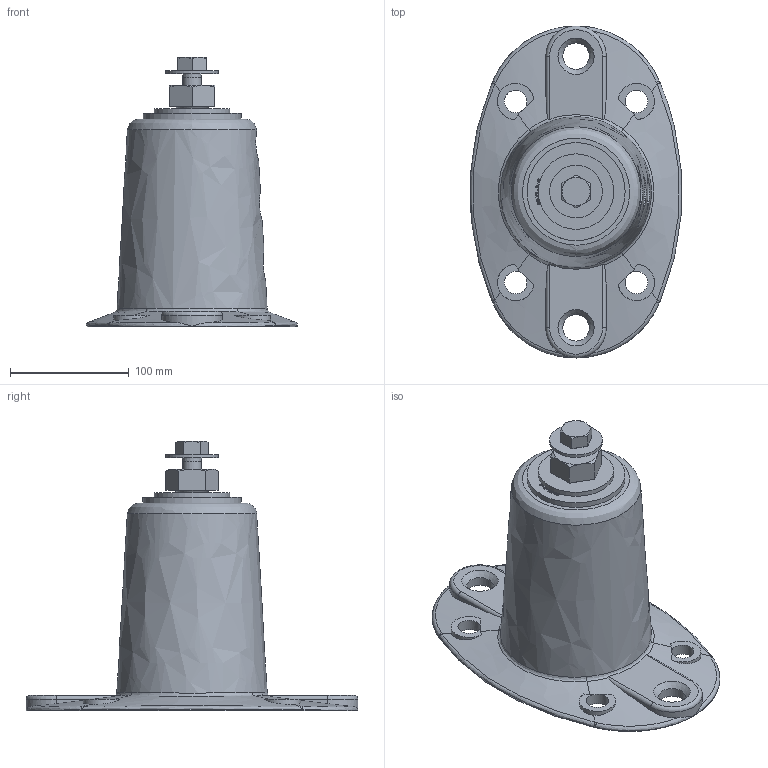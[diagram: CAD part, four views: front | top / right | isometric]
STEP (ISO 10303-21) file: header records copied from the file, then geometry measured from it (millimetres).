
FILE_DESCRIPTION(/* description */ (''),/* implementation_level */ '2;1');
FILE_NAME(/* name */ 'C:\2014_Work\SSLFHC.stp',/* time_stamp */ '2014-05-09T13:32:47-04:00',/* author */ ('mleuck'),/* organization */ (''),/* preprocessor_version */ 'ST-DEVELOPER v15.2',/* originating_system */ 'Autodesk Inventor 2014',/* authorisation */ '');
FILE_SCHEMA (('AUTOMOTIVE_DESIGN { 1 0 10303 214 3 1 1 }'));
Length unit declared in the file: inch
Products named in the file (12): A-21295-1 SSLFH-C BOX; ANSI B18.22.1 - 1 - Regular - Type B; ANSI_ASME B18.2.1 - 1-8 UNC - 4(2); ANSI_ASME B18.2.1 - 5_8-11 UNC - 1(2); ANSI B18.22.1 - 5_8 - Regular - Type B; A-21626 ADJUSTMENT WASHER; A-21605 SSLFH-C SPRING TOP CUP; A-21075 SSLFH-C GROMMET; A-21078-1 SSLFH-C LOWER  SPRING CUP; A-21295-1 SSLFH-C WOS ASSY.ipt; C-1350 SPRING; A-21295-1 SSLFH-C-1350 ASSY.ipt
Bounding box: 177.64 x 279.4 x 226.54 mm (x, y, z)
Volume: 976844.6 mm3; surface area: 344067.5 mm2
Topology: 10 solids, 11 shells, 414 faces, 1058 edges, 691 vertices
Faces by surface type: plane 223, bspline 84, cylinder 81, cone 21, torus 5
Full cylindrical faces by diameter (mm): 15.875 x2, 16.662 x1, 19.05 x5, 22.225 x2, 23.825 x1, 25.4 x6, 25.959 x1, 26.975 x1, 26.987 x1, 38.1 x2, 41.275 x1, 44.45 x1, 50.8 x1, 51.594 x1, 63.5 x1, 71.438 x2, 74.612 x1, 80.962 x1, 82.55 x3, 117.475 x1
Entity records: 16930 total; most frequent: CARTESIAN_POINT 7420, ORIENTED_EDGE 1990, DIRECTION 1664, EDGE_CURVE 995, VERTEX_POINT 674, AXIS2_PLACEMENT_3D 560, LINE 544, VECTOR 544
